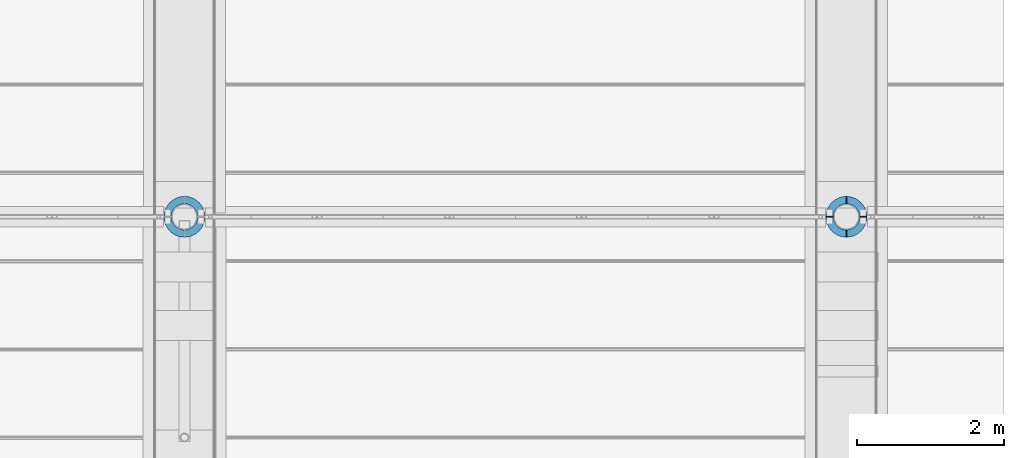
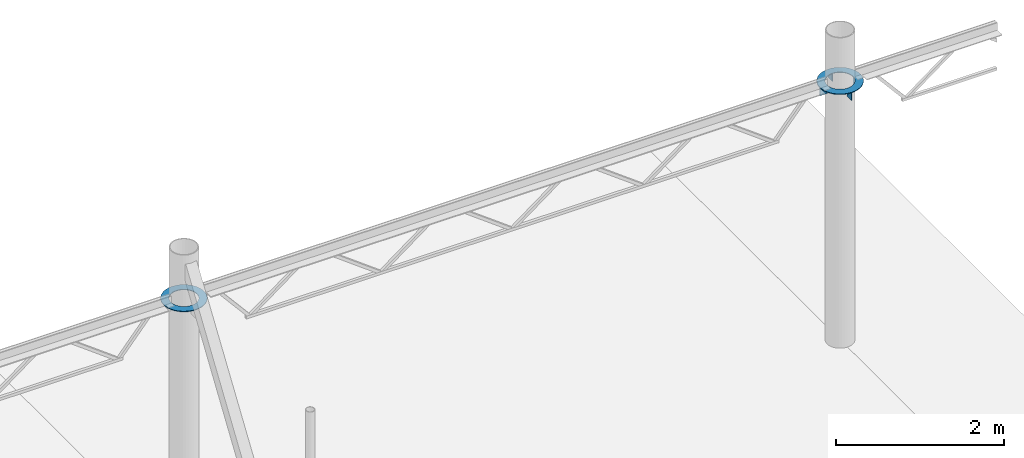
# One storey, part 2 of 21: 6 columns.
"""IFC2X3 building model written with IfcOpenShell, lengths in millimetres."""

from ifc_helpers import new_model, entity, si_unit, converted_unit, derived_unit, direction, frame, origin_with_axes, place, context, subcontext, project, spatial, faceted_brep, material, type_object, element, save


model = new_model("IFC2X3")

# Units and contexts
model_context = context("Model", 3, precision=0.01, world=frame((0.0, 4.29681676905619e-09, 0.0)), true_north=direction((4.01073788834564e-13, 1.0)))
plan_context = context("Plan", 3, precision=0.01, world=frame((0.0, 4.29681676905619e-09, 0.0)), true_north=direction((4.01073788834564e-13, 1.0)))
body_context = subcontext(model_context, "Body", "Model", "MODEL_VIEW")
ifc_project = project(units=[converted_unit("PLANEANGLEUNIT", "DEGREE", entity("IfcPositiveLengthMeasure", 0.0174532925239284), si_unit("PLANEANGLEUNIT", "RADIAN"), dimensions=[0, 0, 0, 0, 0, 0, 0]), si_unit("AREAUNIT", "SQUARE_METRE"), si_unit("LENGTHUNIT", "METRE", prefix="MILLI"), si_unit("MASSUNIT", "GRAM", prefix="KILO"), si_unit("POWERUNIT", "WATT"), si_unit("PRESSUREUNIT", "PASCAL", prefix="KILO"), si_unit("FORCEUNIT", "NEWTON", prefix="KILO"), si_unit("ELECTRICVOLTAGEUNIT", "VOLT"), si_unit("ELECTRICCURRENTUNIT", "AMPERE"), si_unit("THERMODYNAMICTEMPERATUREUNIT", "DEGREE_CELSIUS"), si_unit("TIMEUNIT", "SECOND"), si_unit("VOLUMEUNIT", "CUBIC_METRE"), derived_unit("LINEARVELOCITYUNIT", [(si_unit("LENGTHUNIT", "METRE"), 1), (si_unit("TIMEUNIT", "SECOND"), -1)]), derived_unit("VOLUMETRICFLOWRATEUNIT", [(si_unit("VOLUMEUNIT", "CUBIC_METRE"), 1), (si_unit("TIMEUNIT", "SECOND"), -1)]), derived_unit("THERMALTRANSMITTANCEUNIT", [(si_unit("POWERUNIT", "WATT"), 1), (si_unit("THERMODYNAMICTEMPERATUREUNIT", "KELVIN"), -1), (si_unit("AREAUNIT", "SQUARE_METRE"), -1)]), derived_unit("SOUNDPRESSUREUNIT", [(si_unit("PRESSUREUNIT", "PASCAL"), 1)])], contexts=[model_context, plan_context])

# Site, building, storey
site_placement = place(None, frame((0.0, -4.29681676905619e-09, 0.0), z_axis=(0.0, 0.0, 1.0), x_axis=(1.0, 0.0, 0.0)))
site = spatial("IfcSite", under=ifc_project, at=site_placement, Name="Gardermoen", CompositionType="ELEMENT")
building_placement = place(site_placement, frame((0.0, 4.29681676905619e-09, 0.0), z_axis=(0.0, 0.0, 1.0), x_axis=(1.0, 0.0, 0.0)))
building = spatial("IfcBuilding", under=site, at=building_placement, Name="TS", CompositionType="ELEMENT")
storey_placement = place(building_placement, origin_with_axes())
storey = spatial("IfcBuildingStorey", under=building, at=storey_placement, Name="F", CompositionType="ELEMENT", Elevation=0.0)

# Columns
ifc_material = material(Name="STEEL/S355")
column_type_1 = type_object("IfcColumnType", Name="100*10", PredefinedType="NOTDEFINED")
for number, where, z_axis, x_axis in (
    (1, (727000.0, 441728.0, 214510.999999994), (0.0, -1.0, 0.0), (0.0, 0.0, 1.0)),
    (2, (727228.0, 441500.0, 214510.999999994), (-0.999999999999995, -9.99999902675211e-08, 0.0), (0.0, 0.0, 1.0)),
    (3, (727000.0, 441272.0, 214510.999999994), (0.0, 1.0, 0.0), (0.0, 0.0, 1.0)),
    (4, (726772.0, 441500.0, 214510.999999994), (1.0, 0.0, 0.0), (0.0, 0.0, 1.0)),
):
    element("IfcColumn", number, at=place(storey_placement, frame(where, z_axis=z_axis, x_axis=x_axis)), inside=storey, type_object=column_type_1, material=ifc_material, Name="STÅLSØYLE", ObjectType="100*10", context=body_context, shape_type="Brep", body=[
        faceted_brep([(6.40284270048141e-10, 5.0, -50.0), (-5.82076609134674e-10, 5.00000000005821, 50.0), (109.999999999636, 4.99999999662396, 49.9999999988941), (109.999999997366, 4.99999999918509, -49.9999999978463), (-6.98491930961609e-10, -5.0, 50.0), (109.999999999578, -5.00000000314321, 49.9999999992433), (5.23868948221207e-10, -5.0, -50.0), (109.99999999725, -5.00000000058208, -49.9999999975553)], [[[0, 1, 2, 3]], [[1, 4, 5, 2]], [[4, 6, 7, 5]], [[6, 0, 3, 7]], [[5, 7, 3, 2]], [[6, 4, 1, 0]]]),
    ])
column_type_2 = type_object("IfcColumnType", Name="O556*100", PredefinedType="NOTDEFINED")
column_1_placement = place(storey_placement, frame((727000.0, 441500.0, 214621.0), z_axis=(1.0, 0.0, 0.0), x_axis=(0.0, 0.0, 1.0)))
element("IfcColumn", 5, at=column_1_placement, inside=storey, type_object=column_type_2, material=ifc_material, Name="STÅLSØYLE", ObjectType="O556*100", context=body_context, shape_type="Brep", body=[
    faceted_brep([(0.0, -178.0, 0.0), (-3.20142135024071e-10, -175.808524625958, 27.8453347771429), (9.99999999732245, -175.808524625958, 27.8453347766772), (9.99999999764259, -178.0, -4.65661287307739e-10), (-6.40284270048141e-10, -169.288059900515, 55.005024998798), (9.99999999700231, -169.288059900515, 55.0050249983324), (-9.31322574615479e-10, -158.599161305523, 80.8103089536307), (9.99999999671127, -158.599161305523, 80.8103089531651), (-1.22236087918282e-09, -144.00502499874, 104.625774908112), (9.99999999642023, -144.00502499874, 104.625774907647), (-1.48429535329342e-09, -125.865007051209, 125.86500705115), (9.99999999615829, -125.865007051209, 125.865007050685), (-1.68802216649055e-09, -104.625774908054, 144.005024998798), (9.99999999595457, -104.625774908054, 144.005024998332), (-1.86264514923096e-09, -80.8103089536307, 158.599161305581), (9.99999999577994, -80.8103089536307, 158.599161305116), (-1.94995664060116e-09, -55.0050249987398, 169.288059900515), (9.99999999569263, -55.0050249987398, 169.288059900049), (-2.06637196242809e-09, -27.8453347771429, 175.808524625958), (9.99999999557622, -27.8453347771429, 175.808524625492), (-2.06637196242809e-09, 0.0, 178.0), (9.99999999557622, 0.0, 177.999999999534), (-2.06637196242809e-09, 27.8453347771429, 175.808524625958), (9.99999999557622, 27.8453347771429, 175.808524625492), (-1.94995664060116e-09, 55.0050249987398, 169.288059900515), (9.99999999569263, 55.0050249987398, 169.288059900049), (-1.86264514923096e-09, 80.8103089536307, 158.599161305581), (9.99999999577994, 80.8103089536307, 158.599161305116), (-1.68802216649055e-09, 104.625774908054, 144.005024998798), (9.99999999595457, 104.625774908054, 144.005024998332), (-1.48429535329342e-09, 125.865007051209, 125.86500705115), (9.99999999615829, 125.865007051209, 125.865007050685), (-1.22236087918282e-09, 144.00502499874, 104.625774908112), (9.99999999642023, 144.00502499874, 104.625774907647), (-9.31322574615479e-10, 158.599161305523, 80.8103089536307), (9.99999999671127, 158.599161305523, 80.8103089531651), (-6.40284270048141e-10, 169.288059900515, 55.005024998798), (9.99999999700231, 169.288059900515, 55.0050249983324), (-3.20142135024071e-10, 175.808524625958, 27.8453347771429), (9.99999999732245, 175.808524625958, 27.8453347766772), (0.0, 178.0, 0.0), (9.99999999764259, 178.0, -4.65661287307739e-10), (3.20142135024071e-10, 175.808524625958, -27.8453347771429), (9.99999999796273, 175.808524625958, -27.8453347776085), (6.40284270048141e-10, 169.288059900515, -55.005024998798), (9.99999999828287, 169.288059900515, -55.0050249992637), (9.31322574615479e-10, 158.599161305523, -80.8103089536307), (9.99999999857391, 158.599161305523, -80.8103089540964), (1.22236087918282e-09, 144.00502499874, -104.625774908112), (9.99999999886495, 144.00502499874, -104.625774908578), (1.48429535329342e-09, 125.865007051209, -125.86500705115), (9.99999999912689, 125.865007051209, -125.865007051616), (1.68802216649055e-09, 104.625774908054, -144.005024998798), (9.99999999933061, 104.625774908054, -144.005024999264), (1.86264514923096e-09, 80.8103089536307, -158.599161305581), (9.99999999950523, 80.8103089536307, -158.599161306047), (1.97906047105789e-09, 55.0050249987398, -169.288059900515), (9.99999999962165, 55.0050249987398, -169.28805990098), (2.06637196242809e-09, 27.8453347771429, -175.808524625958), (9.99999999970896, 27.8453347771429, -175.808524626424), (2.06637196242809e-09, 0.0, -178.0), (9.99999999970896, 0.0, -178.000000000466), (2.06637196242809e-09, -27.8453347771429, -175.808524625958), (9.99999999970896, -27.8453347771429, -175.808524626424), (1.97906047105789e-09, -55.0050249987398, -169.288059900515), (9.99999999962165, -55.0050249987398, -169.28805990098), (1.86264514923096e-09, -80.8103089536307, -158.599161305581), (9.99999999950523, -80.8103089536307, -158.599161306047), (1.68802216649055e-09, -104.625774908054, -144.005024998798), (9.99999999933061, -104.625774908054, -144.005024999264), (1.48429535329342e-09, -125.865007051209, -125.86500705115), (9.99999999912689, -125.865007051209, -125.865007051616), (1.22236087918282e-09, -144.00502499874, -104.625774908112), (9.99999999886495, -144.00502499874, -104.625774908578), (9.31322574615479e-10, -158.599161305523, -80.8103089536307), (9.99999999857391, -158.599161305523, -80.8103089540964), (6.40284270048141e-10, -169.288059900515, -55.005024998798), (9.99999999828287, -169.288059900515, -55.0050249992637), (3.20142135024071e-10, -175.808524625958, -27.8453347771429), (9.99999999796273, -175.808524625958, -27.8453347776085), (0.0, -278.0, 0.0), (4.94765117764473e-10, -274.577358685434, -43.4887812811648), (9.99999999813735, -274.577358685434, -43.4887812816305), (9.99999999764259, -278.0, -4.65661287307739e-10), (9.89530235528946e-10, -264.39371153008, -85.9067244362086), (9.99999999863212, -264.39371153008, -85.9067244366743), (1.48429535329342e-09, -247.699813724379, -126.209358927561), (9.99999999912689, -247.699813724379, -126.209358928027), (1.89174897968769e-09, -224.906724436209, -163.404300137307), (9.99999999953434, -224.906724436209, -163.404300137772), (2.27009877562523e-09, -196.575685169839, -196.575685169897), (9.99999999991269, -196.575685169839, -196.575685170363), (2.61934474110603e-09, -163.404300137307, -224.906724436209), (10.0000000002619, -163.404300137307, -224.906724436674), (2.88127921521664e-09, -126.209358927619, -247.699813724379), (10.0000000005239, -126.209358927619, -247.699813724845), (3.08500602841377e-09, -85.9067244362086, -264.393711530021), (10.0000000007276, -85.9067244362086, -264.393711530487), (3.20142135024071e-09, -43.4887812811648, -274.577358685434), (10.000000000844, -43.4887812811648, -274.5773586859), (3.23052518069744e-09, 0.0, -278.0), (10.0000000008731, 0.0, -278.000000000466), (3.20142135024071e-09, 43.4887812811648, -274.577358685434), (10.000000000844, 43.4887812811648, -274.5773586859), (3.08500602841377e-09, 85.9067244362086, -264.393711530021), (10.0000000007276, 85.9067244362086, -264.393711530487), (2.88127921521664e-09, 126.209358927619, -247.699813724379), (10.0000000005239, 126.209358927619, -247.699813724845), (2.61934474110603e-09, 163.404300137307, -224.906724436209), (10.0000000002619, 163.404300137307, -224.906724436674), (2.27009877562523e-09, 196.575685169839, -196.575685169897), (9.99999999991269, 196.575685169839, -196.575685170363), (1.89174897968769e-09, 224.906724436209, -163.404300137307), (9.99999999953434, 224.906724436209, -163.404300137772), (1.48429535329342e-09, 247.699813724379, -126.209358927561), (9.99999999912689, 247.699813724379, -126.209358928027), (9.89530235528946e-10, 264.39371153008, -85.9067244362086), (9.99999999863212, 264.39371153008, -85.9067244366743), (4.94765117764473e-10, 274.577358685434, -43.4887812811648), (9.99999999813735, 274.577358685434, -43.4887812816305), (0.0, 278.0, 0.0), (9.99999999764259, 278.0, -4.65661287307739e-10), (-4.94765117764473e-10, 274.577358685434, 43.4887812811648), (9.99999999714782, 274.577358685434, 43.4887812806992), (-9.89530235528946e-10, 264.39371153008, 85.9067244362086), (9.99999999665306, 264.39371153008, 85.9067244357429), (-1.48429535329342e-09, 247.699813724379, 126.209358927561), (9.99999999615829, 247.699813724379, 126.209358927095), (-1.89174897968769e-09, 224.906724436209, 163.404300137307), (9.99999999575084, 224.906724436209, 163.404300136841), (-2.27009877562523e-09, 196.575685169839, 196.575685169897), (9.99999999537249, 196.575685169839, 196.575685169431), (-2.61934474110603e-09, 163.404300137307, 224.906724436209), (9.99999999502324, 163.404300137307, 224.906724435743), (-2.88127921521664e-09, 126.209358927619, 247.699813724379), (9.99999999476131, 126.209358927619, 247.699813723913), (-3.08500602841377e-09, 85.9067244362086, 264.393711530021), (9.99999999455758, 85.9067244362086, 264.393711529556), (-3.17231751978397e-09, 43.4887812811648, 274.577358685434), (9.99999999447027, 43.4887812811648, 274.577358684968), (-3.23052518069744e-09, 0.0, 278.0), (9.99999999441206, 0.0, 277.999999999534), (-3.17231751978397e-09, -43.4887812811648, 274.577358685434), (9.99999999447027, -43.4887812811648, 274.577358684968), (-3.08500602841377e-09, -85.9067244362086, 264.393711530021), (9.99999999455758, -85.9067244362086, 264.393711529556), (-2.88127921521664e-09, -126.209358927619, 247.699813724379), (9.99999999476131, -126.209358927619, 247.699813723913), (-2.61934474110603e-09, -163.404300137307, 224.906724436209), (9.99999999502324, -163.404300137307, 224.906724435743), (-2.27009877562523e-09, -196.575685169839, 196.575685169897), (9.99999999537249, -196.575685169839, 196.575685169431), (-1.89174897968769e-09, -224.906724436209, 163.404300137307), (9.99999999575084, -224.906724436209, 163.404300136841), (-1.48429535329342e-09, -247.699813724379, 126.209358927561), (9.99999999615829, -247.699813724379, 126.209358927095), (-9.89530235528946e-10, -264.39371153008, 85.9067244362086), (9.99999999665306, -264.39371153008, 85.9067244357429), (-4.94765117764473e-10, -274.577358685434, 43.4887812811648), (9.99999999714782, -274.577358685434, 43.4887812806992)], [[[0, 1, 2, 3]], [[1, 4, 5, 2]], [[4, 6, 7, 5]], [[6, 8, 9, 7]], [[8, 10, 11, 9]], [[10, 12, 13, 11]], [[12, 14, 15, 13]], [[14, 16, 17, 15]], [[16, 18, 19, 17]], [[18, 20, 21, 19]], [[20, 22, 23, 21]], [[22, 24, 25, 23]], [[24, 26, 27, 25]], [[26, 28, 29, 27]], [[28, 30, 31, 29]], [[30, 32, 33, 31]], [[32, 34, 35, 33]], [[34, 36, 37, 35]], [[36, 38, 39, 37]], [[38, 40, 41, 39]], [[40, 42, 43, 41]], [[42, 44, 45, 43]], [[44, 46, 47, 45]], [[46, 48, 49, 47]], [[48, 50, 51, 49]], [[50, 52, 53, 51]], [[52, 54, 55, 53]], [[54, 56, 57, 55]], [[56, 58, 59, 57]], [[58, 60, 61, 59]], [[60, 62, 63, 61]], [[62, 64, 65, 63]], [[64, 66, 67, 65]], [[66, 68, 69, 67]], [[68, 70, 71, 69]], [[70, 72, 73, 71]], [[72, 74, 75, 73]], [[74, 76, 77, 75]], [[76, 78, 79, 77]], [[78, 0, 3, 79]], [[80, 81, 82, 83]], [[81, 84, 85, 82]], [[84, 86, 87, 85]], [[86, 88, 89, 87]], [[88, 90, 91, 89]], [[90, 92, 93, 91]], [[92, 94, 95, 93]], [[94, 96, 97, 95]], [[96, 98, 99, 97]], [[98, 100, 101, 99]], [[100, 102, 103, 101]], [[102, 104, 105, 103]], [[104, 106, 107, 105]], [[106, 108, 109, 107]], [[108, 110, 111, 109]], [[110, 112, 113, 111]], [[112, 114, 115, 113]], [[114, 116, 117, 115]], [[116, 118, 119, 117]], [[118, 120, 121, 119]], [[120, 122, 123, 121]], [[122, 124, 125, 123]], [[124, 126, 127, 125]], [[126, 128, 129, 127]], [[128, 130, 131, 129]], [[130, 132, 133, 131]], [[132, 134, 135, 133]], [[134, 136, 137, 135]], [[136, 138, 139, 137]], [[138, 140, 141, 139]], [[140, 142, 143, 141]], [[142, 144, 145, 143]], [[144, 146, 147, 145]], [[146, 148, 149, 147]], [[148, 150, 151, 149]], [[150, 152, 153, 151]], [[152, 154, 155, 153]], [[154, 156, 157, 155]], [[156, 158, 159, 157]], [[158, 80, 83, 159]], [[85, 87, 89, 91, 93, 95, 97, 99, 101, 103, 105, 107, 109, 111, 113, 115, 117, 119, 121, 123, 125, 127, 129, 131, 133, 135, 137, 139, 141, 143, 145, 147, 149, 151, 153, 155, 157, 159, 83, 82], [5, 7, 9, 11, 13, 15, 17, 19, 21, 23, 25, 27, 29, 31, 33, 35, 37, 39, 41, 43, 45, 47, 49, 51, 53, 55, 57, 59, 61, 63, 65, 67, 69, 71, 73, 75, 77, 79, 3, 2]], [[158, 156, 154, 152, 150, 148, 146, 144, 142, 140, 138, 136, 134, 132, 130, 128, 126, 124, 122, 120, 118, 116, 114, 112, 110, 108, 106, 104, 102, 100, 98, 96, 94, 92, 90, 88, 86, 84, 81, 80], [78, 76, 74, 72, 70, 68, 66, 64, 62, 60, 58, 56, 54, 52, 50, 48, 46, 44, 42, 40, 38, 36, 34, 32, 30, 28, 26, 24, 22, 20, 18, 16, 14, 12, 10, 8, 6, 4, 1, 0]]]),
])
column_2_placement = place(storey_placement, frame((718000.0, 441500.0, 214621.0), z_axis=(1.0, 0.0, 0.0), x_axis=(0.0, 0.0, 1.0)))
element("IfcColumn", 6, at=column_2_placement, inside=storey, type_object=column_type_2, material=ifc_material, Name="STÅLSØYLE", ObjectType="O556*100", context=body_context, shape_type="Brep", body=[
    faceted_brep([(0.0, -178.0, 0.0), (-3.20142135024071e-10, -175.808524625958, 27.8453347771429), (9.99999999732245, -175.808524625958, 27.8453347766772), (9.99999999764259, -178.0, -4.65661287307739e-10), (-6.40284270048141e-10, -169.288059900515, 55.005024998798), (9.99999999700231, -169.288059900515, 55.0050249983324), (-9.31322574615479e-10, -158.599161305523, 80.8103089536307), (9.99999999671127, -158.599161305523, 80.8103089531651), (-1.22236087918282e-09, -144.00502499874, 104.625774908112), (9.99999999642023, -144.00502499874, 104.625774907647), (-1.48429535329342e-09, -125.865007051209, 125.86500705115), (9.99999999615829, -125.865007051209, 125.865007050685), (-1.68802216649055e-09, -104.625774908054, 144.005024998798), (9.99999999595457, -104.625774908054, 144.005024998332), (-1.86264514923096e-09, -80.8103089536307, 158.599161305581), (9.99999999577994, -80.8103089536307, 158.599161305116), (-1.94995664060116e-09, -55.0050249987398, 169.288059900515), (9.99999999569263, -55.0050249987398, 169.288059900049), (-2.06637196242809e-09, -27.8453347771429, 175.808524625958), (9.99999999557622, -27.8453347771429, 175.808524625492), (-2.06637196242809e-09, 0.0, 178.0), (9.99999999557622, 0.0, 177.999999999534), (-2.06637196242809e-09, 27.8453347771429, 175.808524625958), (9.99999999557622, 27.8453347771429, 175.808524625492), (-1.94995664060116e-09, 55.0050249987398, 169.288059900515), (9.99999999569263, 55.0050249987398, 169.288059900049), (-1.86264514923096e-09, 80.8103089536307, 158.599161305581), (9.99999999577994, 80.8103089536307, 158.599161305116), (-1.68802216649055e-09, 104.625774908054, 144.005024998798), (9.99999999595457, 104.625774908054, 144.005024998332), (-1.48429535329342e-09, 125.865007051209, 125.86500705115), (9.99999999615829, 125.865007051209, 125.865007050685), (-1.22236087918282e-09, 144.00502499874, 104.625774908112), (9.99999999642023, 144.00502499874, 104.625774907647), (-9.31322574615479e-10, 158.599161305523, 80.8103089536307), (9.99999999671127, 158.599161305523, 80.8103089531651), (-6.40284270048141e-10, 169.288059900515, 55.005024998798), (9.99999999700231, 169.288059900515, 55.0050249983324), (-3.20142135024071e-10, 175.808524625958, 27.8453347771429), (9.99999999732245, 175.808524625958, 27.8453347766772), (0.0, 178.0, 0.0), (9.99999999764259, 178.0, -4.65661287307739e-10), (3.20142135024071e-10, 175.808524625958, -27.8453347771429), (9.99999999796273, 175.808524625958, -27.8453347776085), (6.40284270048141e-10, 169.288059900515, -55.005024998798), (9.99999999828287, 169.288059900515, -55.0050249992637), (9.31322574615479e-10, 158.599161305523, -80.8103089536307), (9.99999999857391, 158.599161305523, -80.8103089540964), (1.22236087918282e-09, 144.00502499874, -104.625774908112), (9.99999999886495, 144.00502499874, -104.625774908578), (1.48429535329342e-09, 125.865007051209, -125.86500705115), (9.99999999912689, 125.865007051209, -125.865007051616), (1.68802216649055e-09, 104.625774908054, -144.005024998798), (9.99999999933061, 104.625774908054, -144.005024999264), (1.86264514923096e-09, 80.8103089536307, -158.599161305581), (9.99999999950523, 80.8103089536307, -158.599161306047), (1.97906047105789e-09, 55.0050249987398, -169.288059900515), (9.99999999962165, 55.0050249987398, -169.28805990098), (2.06637196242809e-09, 27.8453347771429, -175.808524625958), (9.99999999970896, 27.8453347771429, -175.808524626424), (2.06637196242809e-09, 0.0, -178.0), (9.99999999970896, 0.0, -178.000000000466), (2.06637196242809e-09, -27.8453347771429, -175.808524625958), (9.99999999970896, -27.8453347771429, -175.808524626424), (1.97906047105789e-09, -55.0050249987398, -169.288059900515), (9.99999999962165, -55.0050249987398, -169.28805990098), (1.86264514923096e-09, -80.8103089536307, -158.599161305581), (9.99999999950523, -80.8103089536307, -158.599161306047), (1.68802216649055e-09, -104.625774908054, -144.005024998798), (9.99999999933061, -104.625774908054, -144.005024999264), (1.48429535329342e-09, -125.865007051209, -125.86500705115), (9.99999999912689, -125.865007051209, -125.865007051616), (1.22236087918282e-09, -144.00502499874, -104.625774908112), (9.99999999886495, -144.00502499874, -104.625774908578), (9.31322574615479e-10, -158.599161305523, -80.8103089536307), (9.99999999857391, -158.599161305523, -80.8103089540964), (6.40284270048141e-10, -169.288059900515, -55.005024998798), (9.99999999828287, -169.288059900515, -55.0050249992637), (3.20142135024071e-10, -175.808524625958, -27.8453347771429), (9.99999999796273, -175.808524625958, -27.8453347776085), (0.0, -278.0, 0.0), (4.94765117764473e-10, -274.577358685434, -43.4887812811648), (9.99999999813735, -274.577358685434, -43.4887812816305), (9.99999999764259, -278.0, -4.65661287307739e-10), (9.89530235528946e-10, -264.39371153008, -85.9067244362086), (9.99999999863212, -264.39371153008, -85.9067244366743), (1.48429535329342e-09, -247.699813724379, -126.209358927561), (9.99999999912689, -247.699813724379, -126.209358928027), (1.89174897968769e-09, -224.906724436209, -163.404300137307), (9.99999999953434, -224.906724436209, -163.404300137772), (2.27009877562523e-09, -196.575685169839, -196.575685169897), (9.99999999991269, -196.575685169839, -196.575685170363), (2.61934474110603e-09, -163.404300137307, -224.906724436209), (10.0000000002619, -163.404300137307, -224.906724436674), (2.88127921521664e-09, -126.209358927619, -247.699813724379), (10.0000000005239, -126.209358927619, -247.699813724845), (3.08500602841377e-09, -85.9067244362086, -264.393711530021), (10.0000000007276, -85.9067244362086, -264.393711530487), (3.20142135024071e-09, -43.4887812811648, -274.577358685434), (10.000000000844, -43.4887812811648, -274.5773586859), (3.23052518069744e-09, 0.0, -278.0), (10.0000000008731, 0.0, -278.000000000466), (3.20142135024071e-09, 43.4887812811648, -274.577358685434), (10.000000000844, 43.4887812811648, -274.5773586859), (3.08500602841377e-09, 85.9067244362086, -264.393711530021), (10.0000000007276, 85.9067244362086, -264.393711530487), (2.88127921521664e-09, 126.209358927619, -247.699813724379), (10.0000000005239, 126.209358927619, -247.699813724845), (2.61934474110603e-09, 163.404300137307, -224.906724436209), (10.0000000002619, 163.404300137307, -224.906724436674), (2.27009877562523e-09, 196.575685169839, -196.575685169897), (9.99999999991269, 196.575685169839, -196.575685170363), (1.89174897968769e-09, 224.906724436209, -163.404300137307), (9.99999999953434, 224.906724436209, -163.404300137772), (1.48429535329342e-09, 247.699813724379, -126.209358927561), (9.99999999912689, 247.699813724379, -126.209358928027), (9.89530235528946e-10, 264.39371153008, -85.9067244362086), (9.99999999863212, 264.39371153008, -85.9067244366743), (4.94765117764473e-10, 274.577358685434, -43.4887812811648), (9.99999999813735, 274.577358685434, -43.4887812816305), (0.0, 278.0, 0.0), (9.99999999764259, 278.0, -4.65661287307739e-10), (-4.94765117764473e-10, 274.577358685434, 43.4887812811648), (9.99999999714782, 274.577358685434, 43.4887812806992), (-9.89530235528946e-10, 264.39371153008, 85.9067244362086), (9.99999999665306, 264.39371153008, 85.9067244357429), (-1.48429535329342e-09, 247.699813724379, 126.209358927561), (9.99999999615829, 247.699813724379, 126.209358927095), (-1.89174897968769e-09, 224.906724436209, 163.404300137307), (9.99999999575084, 224.906724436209, 163.404300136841), (-2.27009877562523e-09, 196.575685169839, 196.575685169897), (9.99999999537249, 196.575685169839, 196.575685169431), (-2.61934474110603e-09, 163.404300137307, 224.906724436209), (9.99999999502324, 163.404300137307, 224.906724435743), (-2.88127921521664e-09, 126.209358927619, 247.699813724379), (9.99999999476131, 126.209358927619, 247.699813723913), (-3.08500602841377e-09, 85.9067244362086, 264.393711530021), (9.99999999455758, 85.9067244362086, 264.393711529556), (-3.17231751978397e-09, 43.4887812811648, 274.577358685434), (9.99999999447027, 43.4887812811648, 274.577358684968), (-3.23052518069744e-09, 0.0, 278.0), (9.99999999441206, 0.0, 277.999999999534), (-3.17231751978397e-09, -43.4887812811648, 274.577358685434), (9.99999999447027, -43.4887812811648, 274.577358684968), (-3.08500602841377e-09, -85.9067244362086, 264.393711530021), (9.99999999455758, -85.9067244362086, 264.393711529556), (-2.88127921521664e-09, -126.209358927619, 247.699813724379), (9.99999999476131, -126.209358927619, 247.699813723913), (-2.61934474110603e-09, -163.404300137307, 224.906724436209), (9.99999999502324, -163.404300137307, 224.906724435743), (-2.27009877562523e-09, -196.575685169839, 196.575685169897), (9.99999999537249, -196.575685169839, 196.575685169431), (-1.89174897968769e-09, -224.906724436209, 163.404300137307), (9.99999999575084, -224.906724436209, 163.404300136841), (-1.48429535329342e-09, -247.699813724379, 126.209358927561), (9.99999999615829, -247.699813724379, 126.209358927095), (-9.89530235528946e-10, -264.39371153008, 85.9067244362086), (9.99999999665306, -264.39371153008, 85.9067244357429), (-4.94765117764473e-10, -274.577358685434, 43.4887812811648), (9.99999999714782, -274.577358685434, 43.4887812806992)], [[[0, 1, 2, 3]], [[1, 4, 5, 2]], [[4, 6, 7, 5]], [[6, 8, 9, 7]], [[8, 10, 11, 9]], [[10, 12, 13, 11]], [[12, 14, 15, 13]], [[14, 16, 17, 15]], [[16, 18, 19, 17]], [[18, 20, 21, 19]], [[20, 22, 23, 21]], [[22, 24, 25, 23]], [[24, 26, 27, 25]], [[26, 28, 29, 27]], [[28, 30, 31, 29]], [[30, 32, 33, 31]], [[32, 34, 35, 33]], [[34, 36, 37, 35]], [[36, 38, 39, 37]], [[38, 40, 41, 39]], [[40, 42, 43, 41]], [[42, 44, 45, 43]], [[44, 46, 47, 45]], [[46, 48, 49, 47]], [[48, 50, 51, 49]], [[50, 52, 53, 51]], [[52, 54, 55, 53]], [[54, 56, 57, 55]], [[56, 58, 59, 57]], [[58, 60, 61, 59]], [[60, 62, 63, 61]], [[62, 64, 65, 63]], [[64, 66, 67, 65]], [[66, 68, 69, 67]], [[68, 70, 71, 69]], [[70, 72, 73, 71]], [[72, 74, 75, 73]], [[74, 76, 77, 75]], [[76, 78, 79, 77]], [[78, 0, 3, 79]], [[80, 81, 82, 83]], [[81, 84, 85, 82]], [[84, 86, 87, 85]], [[86, 88, 89, 87]], [[88, 90, 91, 89]], [[90, 92, 93, 91]], [[92, 94, 95, 93]], [[94, 96, 97, 95]], [[96, 98, 99, 97]], [[98, 100, 101, 99]], [[100, 102, 103, 101]], [[102, 104, 105, 103]], [[104, 106, 107, 105]], [[106, 108, 109, 107]], [[108, 110, 111, 109]], [[110, 112, 113, 111]], [[112, 114, 115, 113]], [[114, 116, 117, 115]], [[116, 118, 119, 117]], [[118, 120, 121, 119]], [[120, 122, 123, 121]], [[122, 124, 125, 123]], [[124, 126, 127, 125]], [[126, 128, 129, 127]], [[128, 130, 131, 129]], [[130, 132, 133, 131]], [[132, 134, 135, 133]], [[134, 136, 137, 135]], [[136, 138, 139, 137]], [[138, 140, 141, 139]], [[140, 142, 143, 141]], [[142, 144, 145, 143]], [[144, 146, 147, 145]], [[146, 148, 149, 147]], [[148, 150, 151, 149]], [[150, 152, 153, 151]], [[152, 154, 155, 153]], [[154, 156, 157, 155]], [[156, 158, 159, 157]], [[158, 80, 83, 159]], [[85, 87, 89, 91, 93, 95, 97, 99, 101, 103, 105, 107, 109, 111, 113, 115, 117, 119, 121, 123, 125, 127, 129, 131, 133, 135, 137, 139, 141, 143, 145, 147, 149, 151, 153, 155, 157, 159, 83, 82], [5, 7, 9, 11, 13, 15, 17, 19, 21, 23, 25, 27, 29, 31, 33, 35, 37, 39, 41, 43, 45, 47, 49, 51, 53, 55, 57, 59, 61, 63, 65, 67, 69, 71, 73, 75, 77, 79, 3, 2]], [[158, 156, 154, 152, 150, 148, 146, 144, 142, 140, 138, 136, 134, 132, 130, 128, 126, 124, 122, 120, 118, 116, 114, 112, 110, 108, 106, 104, 102, 100, 98, 96, 94, 92, 90, 88, 86, 84, 81, 80], [78, 76, 74, 72, 70, 68, 66, 64, 62, 60, 58, 56, 54, 52, 50, 48, 46, 44, 42, 40, 38, 36, 34, 32, 30, 28, 26, 24, 22, 20, 18, 16, 14, 12, 10, 8, 6, 4, 1, 0]]]),
])

save(model, "model.ifc")
